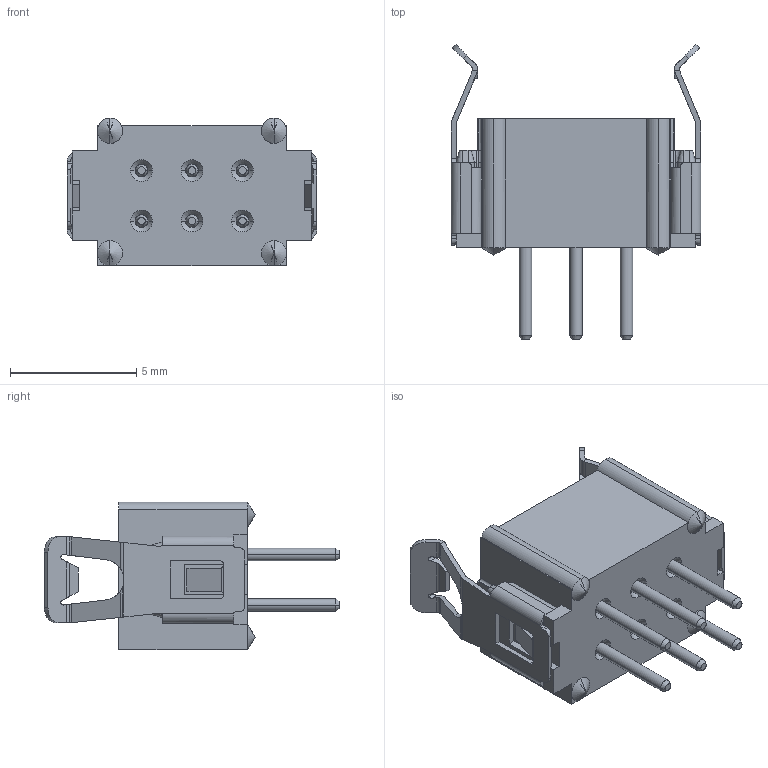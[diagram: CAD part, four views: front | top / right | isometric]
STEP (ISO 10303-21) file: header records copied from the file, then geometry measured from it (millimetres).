
FILE_DESCRIPTION(('STEP AP242'),'1');
FILE_NAME('m80-8530642.stp','2023-10-24T12:44:56',('TraceParts'),('TraceParts S.A.'),'Spatial InterOp 3D',' ',' ');
FILE_SCHEMA(('AP242_MANAGED_MODEL_BASED_3D_ENGINEERING_MIM_LF {1 0 10303 442 1 1 4}'));
Length unit declared in the file: millimetre
Products named in the file (1): m80-8530642_1
Bounding box: 9.9 x 11.7 x 5.85 mm (x, y, z)
Volume: 158.9 mm3; surface area: 558.7 mm2
Topology: 9 solids, 9 shells, 509 faces, 1286 edges, 790 vertices
Faces by surface type: plane 261, cylinder 160, cone 64, bspline 24
Entity records: 15880 total; most frequent: CARTESIAN_POINT 3238, DIRECTION 2626, ORIENTED_EDGE 2556, EDGE_CURVE 1278, AXIS2_PLACEMENT_3D 934, VERTEX_POINT 790, LINE 758, VECTOR 758
